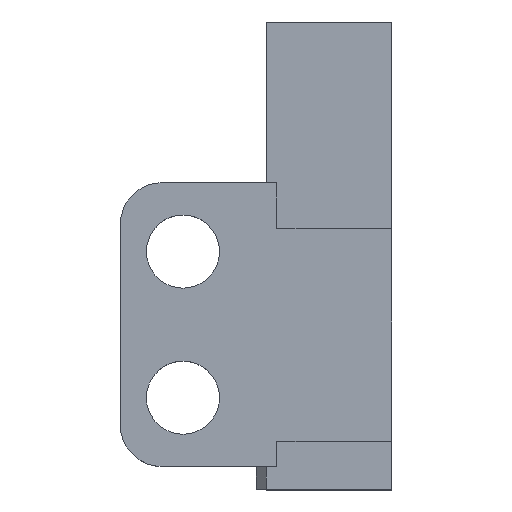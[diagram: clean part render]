
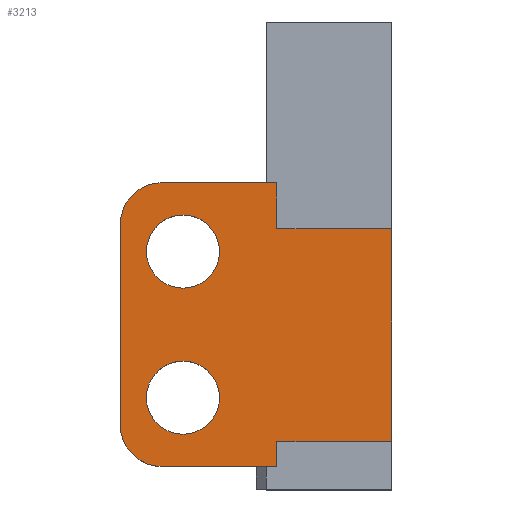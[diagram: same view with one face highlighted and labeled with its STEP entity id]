
A CAD part, top view. The second image highlights one B-rep face of the part: STEP entity #3213.
In plain terms, the highlighted planar face has unit normal (0, 0, 1).
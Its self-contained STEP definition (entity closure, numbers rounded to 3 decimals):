
#19 = DIRECTION ( 'NONE',  ( 0., 1., 0. ) ) ;
#20 = CARTESIAN_POINT ( 'NONE',  ( -2.5, -5.7, 10. ) ) ;
#21 = DIRECTION ( 'NONE',  ( -1., 0., 0. ) ) ;
#72 = CARTESIAN_POINT ( 'NONE',  ( -10., -5.7, 10. ) ) ;
#73 = DIRECTION ( 'NONE',  ( 0., -1., 0. ) ) ;
#84 = CARTESIAN_POINT ( 'NONE',  ( -8., -7.7, 10. ) ) ;
#87 = CARTESIAN_POINT ( 'NONE',  ( -7., -9., 10. ) ) ;
#93 = CARTESIAN_POINT ( 'NONE',  ( -7., -16., 10. ) ) ;
#94 = DIRECTION ( 'NONE',  ( 0., 0., -1. ) ) ;
#95 = DIRECTION ( 'NONE',  ( -1., 0., 0. ) ) ;
#108 = CARTESIAN_POINT ( 'NONE',  ( -8., -17.3, 10. ) ) ;
#109 = DIRECTION ( 'NONE',  ( 0., 0., 1. ) ) ;
#110 = DIRECTION ( 'NONE',  ( 1., 0., 0. ) ) ;
#118 = DIRECTION ( 'NONE',  ( 0., 0., -1. ) ) ;
#119 = DIRECTION ( 'NONE',  ( -1., 0., 0. ) ) ;
#121 = DIRECTION ( 'NONE',  ( 0., 0., 1. ) ) ;
#122 = DIRECTION ( 'NONE',  ( 1., 0., 0. ) ) ;
#133 = CARTESIAN_POINT ( 'NONE',  ( -5.25, -16., 10. ) ) ;
#206 = EDGE_CURVE ( 'NONE', #1738, #1737, #531, .T. ) ;
#275 = EDGE_CURVE ( 'NONE', #1737, #1770, #2501, .T. ) ;
#276 = EDGE_CURVE ( 'NONE', #1761, #1738, #2512, .T. ) ;
#278 = EDGE_CURVE ( 'NONE', #1770, #1769, #2505, .T. ) ;
#285 = EDGE_CURVE ( 'NONE', #1765, #1762, #2517, .T. ) ;
#531 = LINE ( 'NONE', #2798, #544 ) ;
#544 = VECTOR ( 'NONE', #2805, 1000. ) ;
#615 = ORIENTED_EDGE ( 'NONE', *, *, #2576, .T. ) ;
#616 = ORIENTED_EDGE ( 'NONE', *, *, #285, .T. ) ;
#617 = ORIENTED_EDGE ( 'NONE', *, *, #2527, .T. ) ;
#618 = ORIENTED_EDGE ( 'NONE', *, *, #276, .T. ) ;
#619 = ORIENTED_EDGE ( 'NONE', *, *, #206, .T. ) ;
#620 = ORIENTED_EDGE ( 'NONE', *, *, #275, .T. ) ;
#621 = ORIENTED_EDGE ( 'NONE', *, *, #278, .T. ) ;
#622 = ORIENTED_EDGE ( 'NONE', *, *, #2528, .T. ) ;
#623 = ORIENTED_EDGE ( 'NONE', *, *, #2571, .T. ) ;
#677 = VERTEX_POINT ( 'NONE', #1632 ) ;
#683 = EDGE_LOOP ( 'NONE', ( #2249, #2250 ) ) ;
#684 = EDGE_LOOP ( 'NONE', ( #2251, #615, #616, #617, #618, #619, #620, #621, #622, #623 ) ) ;
#952 = VECTOR ( 'NONE', #1633, 1000. ) ;
#1427 = CARTESIAN_POINT ( 'NONE',  ( -2.5, -19.3, 10. ) ) ;
#1439 = VERTEX_POINT ( 'NONE', #1643 ) ;
#1446 = VERTEX_POINT ( 'NONE', #1649 ) ;
#1593 = LINE ( 'NONE', #1427, #1599 ) ;
#1599 = VECTOR ( 'NONE', #19, 1000. ) ;
#1601 = LINE ( 'NONE', #20, #1602 ) ;
#1602 = VECTOR ( 'NONE', #21, 1000. ) ;
#1617 = CARTESIAN_POINT ( 'NONE',  ( -2.5, -7.9, 10. ) ) ;
#1618 = DIRECTION ( 'NONE',  ( 0., 1., 0. ) ) ;
#1625 = CARTESIAN_POINT ( 'NONE',  ( -10., -19.3, 10. ) ) ;
#1632 = CARTESIAN_POINT ( 'NONE',  ( -8.75, -9., 10. ) ) ;
#1633 = DIRECTION ( 'NONE',  ( 1., 0., 0. ) ) ;
#1643 = CARTESIAN_POINT ( 'NONE',  ( -5.25, -9., 10. ) ) ;
#1649 = CARTESIAN_POINT ( 'NONE',  ( -8.75, -16., 10. ) ) ;
#1737 = VERTEX_POINT ( 'NONE', #2920 ) ;
#1738 = VERTEX_POINT ( 'NONE', #2921 ) ;
#1761 = VERTEX_POINT ( 'NONE', #2944 ) ;
#1762 = VERTEX_POINT ( 'NONE', #2945 ) ;
#1765 = VERTEX_POINT ( 'NONE', #2948 ) ;
#1768 = VERTEX_POINT ( 'NONE', #2951 ) ;
#1769 = VERTEX_POINT ( 'NONE', #2952 ) ;
#1770 = VERTEX_POINT ( 'NONE', #2953 ) ;
#1774 = VERTEX_POINT ( 'NONE', #2957 ) ;
#1775 = VERTEX_POINT ( 'NONE', #2958 ) ;
#1851 = EDGE_CURVE ( 'NONE', #2864, #1446, #2673, .T. ) ;
#1854 = EDGE_CURVE ( 'NONE', #1439, #677, #2678, .T. ) ;
#1970 = CARTESIAN_POINT ( 'NONE',  ( 3., -7.9, 10. ) ) ;
#1974 = DIRECTION ( 'NONE',  ( -1., 0., 0. ) ) ;
#1975 = CARTESIAN_POINT ( 'NONE',  ( -2.5, -18.1, 10. ) ) ;
#1976 = DIRECTION ( 'NONE',  ( 1., 0., 0. ) ) ;
#2076 = CARTESIAN_POINT ( 'NONE',  ( -7., -16., 10. ) ) ;
#2083 = DIRECTION ( 'NONE',  ( 0., 0., -1. ) ) ;
#2084 = DIRECTION ( 'NONE',  ( -1., 0., 0. ) ) ;
#2085 = CARTESIAN_POINT ( 'NONE',  ( -7., -9., 10. ) ) ;
#2089 = DIRECTION ( 'NONE',  ( 0., 0., -1. ) ) ;
#2090 = DIRECTION ( 'NONE',  ( -1., 0., 0. ) ) ;
#2205 = EDGE_LOOP ( 'NONE', ( #2247, #2248 ) ) ;
#2247 = ORIENTED_EDGE ( 'NONE', *, *, #2575, .T. ) ;
#2248 = ORIENTED_EDGE ( 'NONE', *, *, #1851, .T. ) ;
#2249 = ORIENTED_EDGE ( 'NONE', *, *, #2564, .T. ) ;
#2250 = ORIENTED_EDGE ( 'NONE', *, *, #1854, .T. ) ;
#2251 = ORIENTED_EDGE ( 'NONE', *, *, #2554, .T. ) ;
#2281 = AXIS2_PLACEMENT_3D ( 'NONE', #2310, #2311, #2312 ) ;
#2309 = PLANE ( 'NONE',  #2281 ) ;
#2310 = CARTESIAN_POINT ( 'NONE',  ( 3., -18.1, 10. ) ) ;
#2311 = DIRECTION ( 'NONE',  ( 0., 0., 1. ) ) ;
#2312 = DIRECTION ( 'NONE',  ( 1., 0., 0. ) ) ;
#2501 = LINE ( 'NONE', #1970, #2510 ) ;
#2503 = VECTOR ( 'NONE', #1618, 1000. ) ;
#2505 = LINE ( 'NONE', #1617, #2503 ) ;
#2510 = VECTOR ( 'NONE', #1974, 1000. ) ;
#2512 = LINE ( 'NONE', #1975, #2513 ) ;
#2513 = VECTOR ( 'NONE', #1976, 1000. ) ;
#2517 = LINE ( 'NONE', #1625, #952 ) ;
#2527 = EDGE_CURVE ( 'NONE', #1762, #1761, #1593, .T. ) ;
#2528 = EDGE_CURVE ( 'NONE', #1769, #1768, #1601, .T. ) ;
#2554 = EDGE_CURVE ( 'NONE', #1775, #1774, #3002, .T. ) ;
#2564 = EDGE_CURVE ( 'NONE', #677, #1439, #3023, .T. ) ;
#2571 = EDGE_CURVE ( 'NONE', #1768, #1775, #3037, .T. ) ;
#2575 = EDGE_CURVE ( 'NONE', #1446, #2864, #3044, .T. ) ;
#2576 = EDGE_CURVE ( 'NONE', #1774, #1765, #3046, .T. ) ;
#2584 = AXIS2_PLACEMENT_3D ( 'NONE', #2076, #2083, #2084 ) ;
#2585 = AXIS2_PLACEMENT_3D ( 'NONE', #87, #94, #95 ) ;
#2587 = AXIS2_PLACEMENT_3D ( 'NONE', #108, #121, #122 ) ;
#2589 = AXIS2_PLACEMENT_3D ( 'NONE', #84, #109, #110 ) ;
#2593 = AXIS2_PLACEMENT_3D ( 'NONE', #2085, #2089, #2090 ) ;
#2612 = AXIS2_PLACEMENT_3D ( 'NONE', #93, #118, #119 ) ;
#2673 = CIRCLE ( 'NONE', #2584, 1.75 ) ;
#2678 = CIRCLE ( 'NONE', #2593, 1.75 ) ;
#2798 = CARTESIAN_POINT ( 'NONE',  ( 3., -18.1, 10. ) ) ;
#2805 = DIRECTION ( 'NONE',  ( 0., 1., 0. ) ) ;
#2864 = VERTEX_POINT ( 'NONE', #133 ) ;
#2920 = CARTESIAN_POINT ( 'NONE',  ( 3., -7.9, 10. ) ) ;
#2921 = CARTESIAN_POINT ( 'NONE',  ( 3., -18.1, 10. ) ) ;
#2944 = CARTESIAN_POINT ( 'NONE',  ( -2.5, -18.1, 10. ) ) ;
#2945 = CARTESIAN_POINT ( 'NONE',  ( -2.5, -19.3, 10. ) ) ;
#2948 = CARTESIAN_POINT ( 'NONE',  ( -8., -19.3, 10. ) ) ;
#2951 = CARTESIAN_POINT ( 'NONE',  ( -8., -5.7, 10. ) ) ;
#2952 = CARTESIAN_POINT ( 'NONE',  ( -2.5, -5.7, 10. ) ) ;
#2953 = CARTESIAN_POINT ( 'NONE',  ( -2.5, -7.9, 10. ) ) ;
#2957 = CARTESIAN_POINT ( 'NONE',  ( -10., -17.3, 10. ) ) ;
#2958 = CARTESIAN_POINT ( 'NONE',  ( -10., -7.7, 10. ) ) ;
#3002 = LINE ( 'NONE', #72, #3003 ) ;
#3003 = VECTOR ( 'NONE', #73, 1000. ) ;
#3023 = CIRCLE ( 'NONE', #2585, 1.75 ) ;
#3037 = CIRCLE ( 'NONE', #2589, 2. ) ;
#3044 = CIRCLE ( 'NONE', #2612, 1.75 ) ;
#3046 = CIRCLE ( 'NONE', #2587, 2. ) ;
#3213 = ADVANCED_FACE ( 'NONE', ( #3438, #3442, #3444 ), #2309, .T. ) ;
#3438 = FACE_BOUND ( 'NONE', #2205, .T. ) ;
#3442 = FACE_BOUND ( 'NONE', #683, .T. ) ;
#3444 = FACE_OUTER_BOUND ( 'NONE', #684, .T. ) ;
